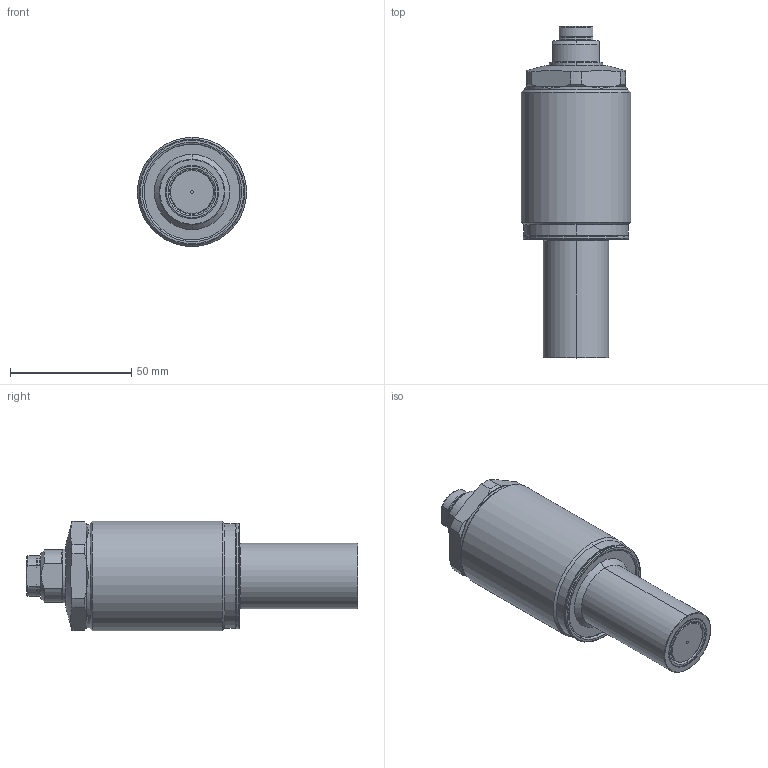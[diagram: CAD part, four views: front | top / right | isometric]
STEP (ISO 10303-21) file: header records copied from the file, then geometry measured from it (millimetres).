
FILE_DESCRIPTION(/* description */ (''),/* implementation_level */ '2;1');
FILE_NAME(/* name */ 'GSC06-Q.stp',/* time_stamp */ '2025-01-09T16:32:58+08:00',/* author */ (''),/* organization */ (''),/* preprocessor_version */ 'ST-DEVELOPER v16.7',/* originating_system */ 'SIEMENS PLM Software NX 12.0',/* authorisation */ '');
FILE_SCHEMA (('AUTOMOTIVE_DESIGN { 1 0 10303 214 3 1 1 1 }'));
Length unit declared in the file: millimetre
Products named in the file (8): AS012123; TNC0403_ContactBolt_M12124; GSC06-Q-05; GSC06-Q-04; GSC06-Q-03; GSC06-Q-01; GSC06-Q-02; GSC06-Q_stp
Assembly tree (7 placements, depth 3):
  GSC06-Q_stp
    GSC06-Q-01
    GSC06-Q-02
      TNC0403_ContactBolt_M12124
      AS012123
    GSC06-Q-03
    GSC06-Q-04
    GSC06-Q-05
Bounding box: 45 x 136.9 x 45 mm (x, y, z)
Volume: 146210.3 mm3; surface area: 24982.5 mm2
Topology: 6 solids, 7 shells, 156 faces, 345 edges, 209 vertices
Faces by surface type: cylinder 47, plane 43, torus 38, cone 26, sphere 2
Full cylindrical faces by diameter (mm): 42.5 x1, 45 x1
Entity records: 4673 total; most frequent: CARTESIAN_POINT 952, DIRECTION 835, ORIENTED_EDGE 682, AXIS2_PLACEMENT_3D 370, EDGE_CURVE 341, VERTEX_POINT 209, CIRCLE 200, EDGE_LOOP 174
